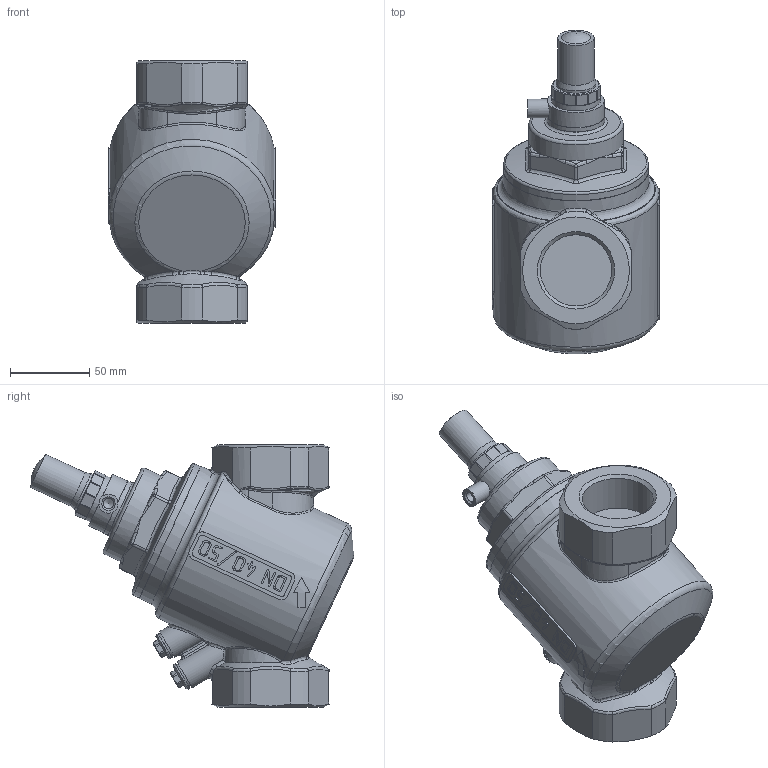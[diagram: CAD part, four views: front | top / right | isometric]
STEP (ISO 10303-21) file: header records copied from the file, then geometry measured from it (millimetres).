
FILE_DESCRIPTION(('STEP AP203'), '1');
FILE_NAME('VT.043.D.0803', '2026-01-19T10:09:08', ('VerevichevVA'), ('Vesta'), 'C3D Converter', 'C3D Toolkit', '');
FILE_SCHEMA(('CONFIG_CONTROL_DESIGN'));
Length unit declared in the file: millimetre
Bounding box: 106 x 204.7 x 166 mm (x, y, z)
Volume: 1250565.2 mm3; surface area: 89098.1 mm2
Topology: 1 solids, 3 shells, 499 faces, 1296 edges, 810 vertices
Faces by surface type: plane 172, bspline 115, cylinder 86, extrusion 81, cone 25, torus 19, sphere 1
Full cylindrical faces by diameter (mm): 6.5 x1, 8 x2, 12 x1, 16.2 x2, 18 x2, 19 x2, 23 x1, 25 x1, 31 x1, 36.5 x1, 45 x2, 60 x1, 91.6 x1, 92.3 x1
Entity records: 24963 total; most frequent: CARTESIAN_POINT 14309, ORIENTED_EDGE 2466, DIRECTION 1709, EDGE_CURVE 1233, VERTEX_POINT 804, AXIS2_PLACEMENT_3D 593, EDGE_LOOP 559, B_SPLINE_CURVE_WITH_KNOTS 557
